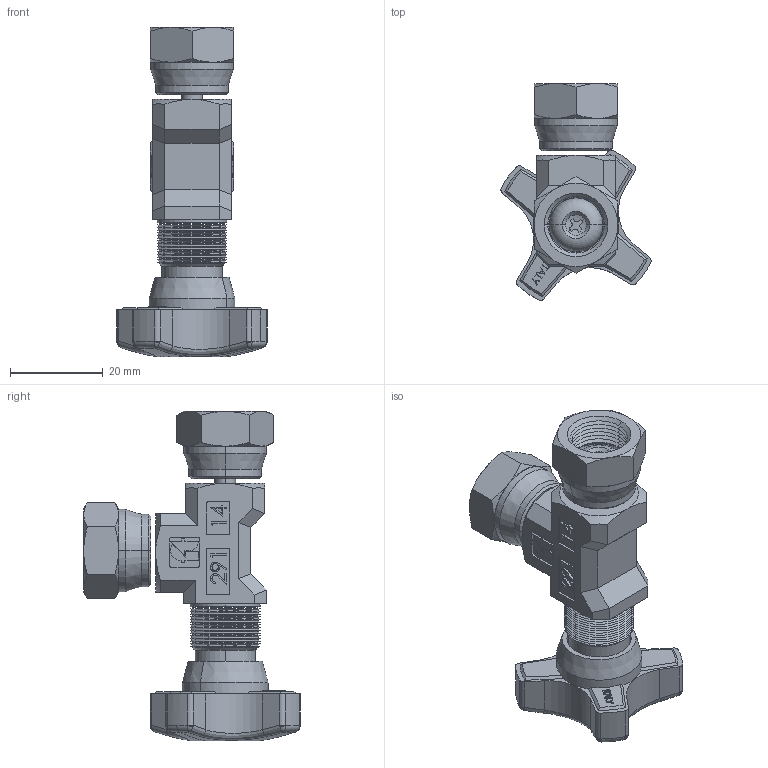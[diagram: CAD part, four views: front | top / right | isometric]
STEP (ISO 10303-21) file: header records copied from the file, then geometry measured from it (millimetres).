
FILE_DESCRIPTION (( 'STEP AP214' ), '1' );
FILE_NAME ('291-05-14.STEP', '2015-05-15T09:45:20', ( '' ), ( '' ), 'SwSTEP 2.0', 'SolidWorks 2014', '' );
FILE_SCHEMA (( 'AUTOMOTIVE_DESIGN' ));
Length unit declared in the file: millimetre
Products named in the file (1): 291-05-14
Bounding box: 32.36 x 46.68 x 70.95 mm (x, y, z)
Surface area: 9617.8 mm2 (no closed solid volume)
Topology: 0 solids, 23 shells, 538 faces, 1473 edges, 939 vertices
Faces by surface type: plane 255, cone 159, cylinder 68, bspline 43, torus 11, sphere 2
Entity records: 24655 total; most frequent: CARTESIAN_POINT 5474, DIRECTION 2689, ORIENTED_EDGE 2673, EDGE_CURVE 1465, VERTEX_POINT 939, AXIS2_PLACEMENT_3D 906, LINE 877, VECTOR 877
